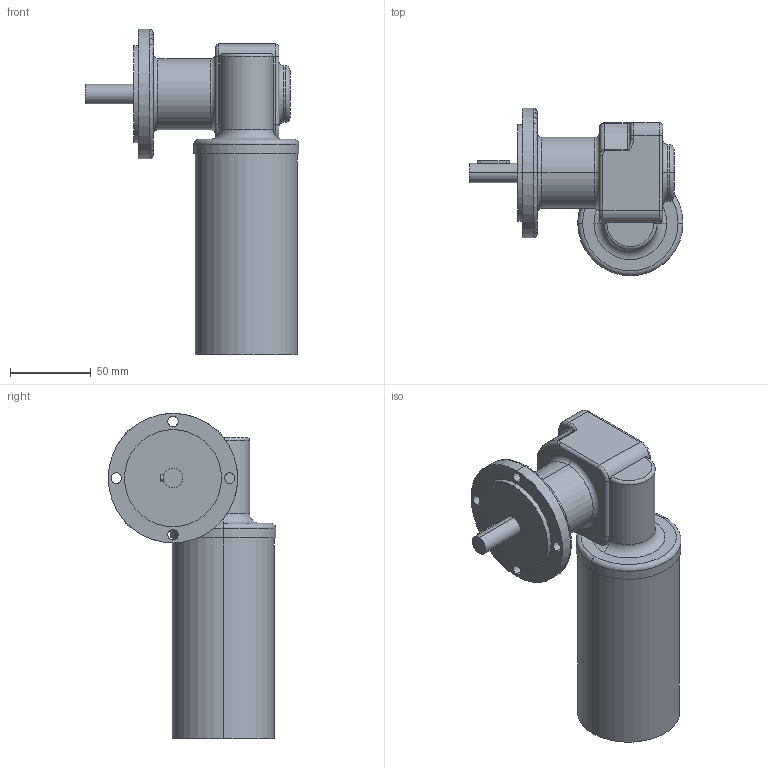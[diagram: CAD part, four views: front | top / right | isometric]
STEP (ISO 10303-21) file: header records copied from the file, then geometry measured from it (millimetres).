
FILE_DESCRIPTION (( 'STEP AP203' ), '1' );
FILE_NAME ('SN5FLGP-57W.STEP', '2016-02-05T08:46:05', ( '' ), ( '' ), 'SwSTEP 2.0', 'SolidWorks 2015', '' );
FILE_SCHEMA (( 'CONFIG_CONTROL_DESIGN' ));
Length unit declared in the file: millimetre
Products named in the file (3): 57W-GP-ø63; SN5FLGP-57W; SN5FL
Assembly tree (2 placements, depth 2):
  SN5FLGP-57W
    SN5FL
    57W-GP-ø63
Bounding box: 132.2 x 103.5 x 201 mm (x, y, z)
Volume: 701781.7 mm3; surface area: 70067.6 mm2
Topology: 2 solids, 2 shells, 111 faces, 260 edges, 152 vertices
Faces by surface type: cylinder 50, torus 31, plane 22, bspline 8
Entity records: 4287 total; most frequent: CARTESIAN_POINT 1448, DIRECTION 578, ORIENTED_EDGE 514, EDGE_CURVE 257, AXIS2_PLACEMENT_3D 250, VERTEX_POINT 152, CIRCLE 142, EDGE_LOOP 121
